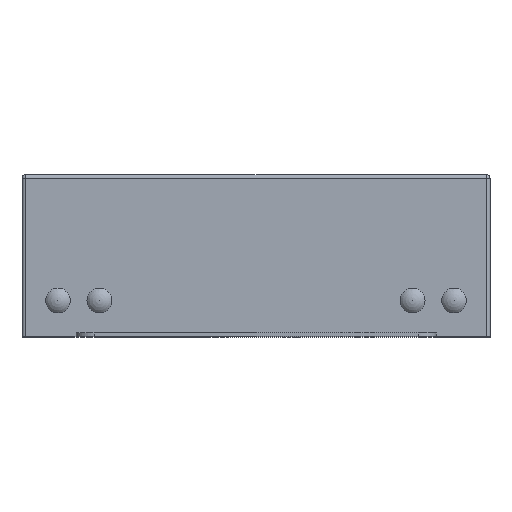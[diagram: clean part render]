
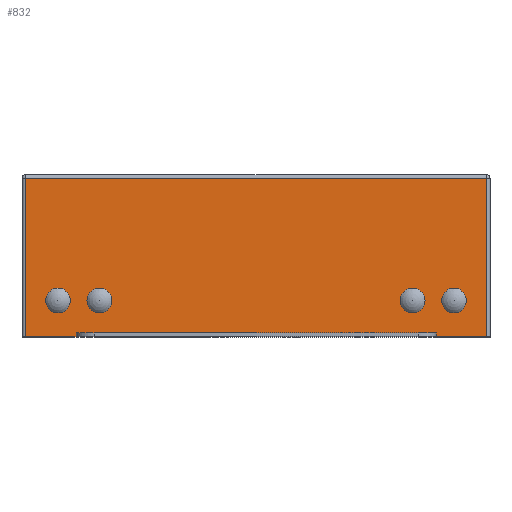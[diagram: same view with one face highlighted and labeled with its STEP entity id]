
A CAD part, top view. The second image highlights one B-rep face of the part: STEP entity #832.
In plain terms, the highlighted planar face has unit normal (0, 0, 1).
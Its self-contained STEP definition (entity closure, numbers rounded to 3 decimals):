
#18 = EDGE_CURVE ( 'NONE', #1821, #1821, #883, .T. ) ;
#25 = VERTEX_POINT ( 'NONE', #826 ) ;
#129 = CARTESIAN_POINT ( 'NONE',  ( -40.05, 10., 65. ) ) ;
#193 = AXIS2_PLACEMENT_3D ( 'NONE', #1241, #2676, #1030 ) ;
#212 = CARTESIAN_POINT ( 'NONE',  ( 64., 228.848, 65. ) ) ;
#246 = ORIENTED_EDGE ( 'NONE', *, *, #1758, .T. ) ;
#266 = CARTESIAN_POINT ( 'NONE',  ( 50., 1., 65. ) ) ;
#281 = DIRECTION ( 'NONE',  ( 0., -1., 0. ) ) ;
#282 = ORIENTED_EDGE ( 'NONE', *, *, #2652, .T. ) ;
#327 = EDGE_LOOP ( 'NONE', ( #2340 ) ) ;
#333 = EDGE_CURVE ( 'NONE', #2614, #2614, #697, .T. ) ;
#352 = CARTESIAN_POINT ( 'NONE',  ( -55., 10., 65. ) ) ;
#369 = PLANE ( 'NONE',  #672 ) ;
#374 = DIRECTION ( 'NONE',  ( 1., 0., 0. ) ) ;
#404 = VERTEX_POINT ( 'NONE', #1797 ) ;
#412 = LINE ( 'NONE', #212, #2384 ) ;
#421 = EDGE_LOOP ( 'NONE', ( #746 ) ) ;
#432 = DIRECTION ( 'NONE',  ( 0., 0., 1. ) ) ;
#463 = DIRECTION ( 'NONE',  ( -1., 0., 0. ) ) ;
#472 = CIRCLE ( 'NONE', #1210, 3.45 ) ;
#486 = LINE ( 'NONE', #2137, #2145 ) ;
#547 = LINE ( 'NONE', #2021, #1286 ) ;
#562 = DIRECTION ( 'NONE',  ( -1., 0., 0. ) ) ;
#573 = CARTESIAN_POINT ( 'NONE',  ( -65., 228.848, 65. ) ) ;
#586 = DIRECTION ( 'NONE',  ( 0., 0., 1. ) ) ;
#602 = ORIENTED_EDGE ( 'NONE', *, *, #2362, .T. ) ;
#603 = VECTOR ( 'NONE', #562, 1000. ) ;
#672 = AXIS2_PLACEMENT_3D ( 'NONE', #573, #586, #757 ) ;
#674 = CARTESIAN_POINT ( 'NONE',  ( 50., 0., 65. ) ) ;
#691 = EDGE_LOOP ( 'NONE', ( #1399 ) ) ;
#697 = CIRCLE ( 'NONE', #2212, 3.45 ) ;
#700 = VECTOR ( 'NONE', #1054, 1000. ) ;
#701 = DIRECTION ( 'NONE',  ( -1., 0., 0. ) ) ;
#715 = VERTEX_POINT ( 'NONE', #2146 ) ;
#722 = EDGE_CURVE ( 'NONE', #1285, #1724, #1925, .T. ) ;
#746 = ORIENTED_EDGE ( 'NONE', *, *, #333, .F. ) ;
#757 = DIRECTION ( 'NONE',  ( 1., 0., 0. ) ) ;
#778 = VERTEX_POINT ( 'NONE', #1602 ) ;
#791 = LINE ( 'NONE', #1213, #863 ) ;
#826 = CARTESIAN_POINT ( 'NONE',  ( -64., 0., 65. ) ) ;
#832 = ADVANCED_FACE ( 'NONE', ( #1798, #1166, #2606, #1582, #1168 ), #369, .T. ) ;
#855 = CARTESIAN_POINT ( 'NONE',  ( 55., 10., 65. ) ) ;
#863 = VECTOR ( 'NONE', #463, 1000. ) ;
#871 = ORIENTED_EDGE ( 'NONE', *, *, #1479, .F. ) ;
#883 = CIRCLE ( 'NONE', #193, 3.45 ) ;
#937 = ORIENTED_EDGE ( 'NONE', *, *, #1533, .T. ) ;
#950 = VECTOR ( 'NONE', #2323, 1000. ) ;
#1016 = EDGE_CURVE ( 'NONE', #778, #778, #2463, .T. ) ;
#1030 = DIRECTION ( 'NONE',  ( 1., 0., 0. ) ) ;
#1054 = DIRECTION ( 'NONE',  ( 0., 1., 0. ) ) ;
#1166 = FACE_BOUND ( 'NONE', #1713, .T. ) ;
#1168 = FACE_OUTER_BOUND ( 'NONE', #1198, .T. ) ;
#1172 = CARTESIAN_POINT ( 'NONE',  ( -65., 0., 65. ) ) ;
#1173 = VERTEX_POINT ( 'NONE', #1264 ) ;
#1196 = ORIENTED_EDGE ( 'NONE', *, *, #2027, .F. ) ;
#1198 = EDGE_LOOP ( 'NONE', ( #937, #246, #871, #602, #282, #1196, #1978, #1323 ) ) ;
#1210 = AXIS2_PLACEMENT_3D ( 'NONE', #855, #432, #1256 ) ;
#1213 = CARTESIAN_POINT ( 'NONE',  ( -65., 44., 65. ) ) ;
#1241 = CARTESIAN_POINT ( 'NONE',  ( -43.5, 10., 65. ) ) ;
#1256 = DIRECTION ( 'NONE',  ( 1., 0., 0. ) ) ;
#1264 = CARTESIAN_POINT ( 'NONE',  ( -50., 1., 65. ) ) ;
#1285 = VERTEX_POINT ( 'NONE', #1752 ) ;
#1286 = VECTOR ( 'NONE', #374, 1000. ) ;
#1297 = AXIS2_PLACEMENT_3D ( 'NONE', #2429, #2634, #1389 ) ;
#1312 = CARTESIAN_POINT ( 'NONE',  ( 50., 0., 65. ) ) ;
#1323 = ORIENTED_EDGE ( 'NONE', *, *, #2446, .T. ) ;
#1386 = LINE ( 'NONE', #1172, #603 ) ;
#1389 = DIRECTION ( 'NONE',  ( 1., 0., 0. ) ) ;
#1399 = ORIENTED_EDGE ( 'NONE', *, *, #2055, .F. ) ;
#1430 = LINE ( 'NONE', #2095, #700 ) ;
#1479 = EDGE_CURVE ( 'NONE', #2397, #25, #1386, .T. ) ;
#1510 = CARTESIAN_POINT ( 'NONE',  ( -65., 0., 65. ) ) ;
#1519 = VERTEX_POINT ( 'NONE', #1585 ) ;
#1533 = EDGE_CURVE ( 'NONE', #715, #1519, #791, .T. ) ;
#1582 = FACE_BOUND ( 'NONE', #327, .T. ) ;
#1585 = CARTESIAN_POINT ( 'NONE',  ( -64., 44., 65. ) ) ;
#1602 = CARTESIAN_POINT ( 'NONE',  ( 46.95, 10., 65. ) ) ;
#1616 = CARTESIAN_POINT ( 'NONE',  ( -51.55, 10., 65. ) ) ;
#1713 = EDGE_LOOP ( 'NONE', ( #2425 ) ) ;
#1724 = VERTEX_POINT ( 'NONE', #1312 ) ;
#1746 = DIRECTION ( 'NONE',  ( 1., 0., 0. ) ) ;
#1752 = CARTESIAN_POINT ( 'NONE',  ( 64., 0., 65. ) ) ;
#1758 = EDGE_CURVE ( 'NONE', #1519, #25, #486, .T. ) ;
#1797 = CARTESIAN_POINT ( 'NONE',  ( 58.45, 10., 65. ) ) ;
#1798 = FACE_BOUND ( 'NONE', #421, .T. ) ;
#1821 = VERTEX_POINT ( 'NONE', #129 ) ;
#1901 = LINE ( 'NONE', #674, #950 ) ;
#1925 = LINE ( 'NONE', #1510, #2663 ) ;
#1978 = ORIENTED_EDGE ( 'NONE', *, *, #722, .F. ) ;
#2021 = CARTESIAN_POINT ( 'NONE',  ( -64., 1., 65. ) ) ;
#2027 = EDGE_CURVE ( 'NONE', #1724, #2120, #1901, .T. ) ;
#2055 = EDGE_CURVE ( 'NONE', #404, #404, #472, .T. ) ;
#2095 = CARTESIAN_POINT ( 'NONE',  ( -50., 0., 65. ) ) ;
#2120 = VERTEX_POINT ( 'NONE', #266 ) ;
#2137 = CARTESIAN_POINT ( 'NONE',  ( -64., 228.848, 65. ) ) ;
#2145 = VECTOR ( 'NONE', #281, 1000. ) ;
#2146 = CARTESIAN_POINT ( 'NONE',  ( 64., 44., 65. ) ) ;
#2212 = AXIS2_PLACEMENT_3D ( 'NONE', #352, #2390, #1746 ) ;
#2308 = CARTESIAN_POINT ( 'NONE',  ( -50., 0., 65. ) ) ;
#2323 = DIRECTION ( 'NONE',  ( 0., 1., 0. ) ) ;
#2340 = ORIENTED_EDGE ( 'NONE', *, *, #18, .F. ) ;
#2362 = EDGE_CURVE ( 'NONE', #2397, #1173, #1430, .T. ) ;
#2384 = VECTOR ( 'NONE', #2480, 1000. ) ;
#2390 = DIRECTION ( 'NONE',  ( 0., 0., 1. ) ) ;
#2397 = VERTEX_POINT ( 'NONE', #2308 ) ;
#2425 = ORIENTED_EDGE ( 'NONE', *, *, #1016, .F. ) ;
#2429 = CARTESIAN_POINT ( 'NONE',  ( 43.5, 10., 65. ) ) ;
#2446 = EDGE_CURVE ( 'NONE', #1285, #715, #412, .T. ) ;
#2463 = CIRCLE ( 'NONE', #1297, 3.45 ) ;
#2480 = DIRECTION ( 'NONE',  ( 0., 1., 0. ) ) ;
#2606 = FACE_BOUND ( 'NONE', #691, .T. ) ;
#2614 = VERTEX_POINT ( 'NONE', #1616 ) ;
#2634 = DIRECTION ( 'NONE',  ( 0., 0., 1. ) ) ;
#2652 = EDGE_CURVE ( 'NONE', #1173, #2120, #547, .T. ) ;
#2663 = VECTOR ( 'NONE', #701, 1000. ) ;
#2676 = DIRECTION ( 'NONE',  ( 0., 0., 1. ) ) ;
